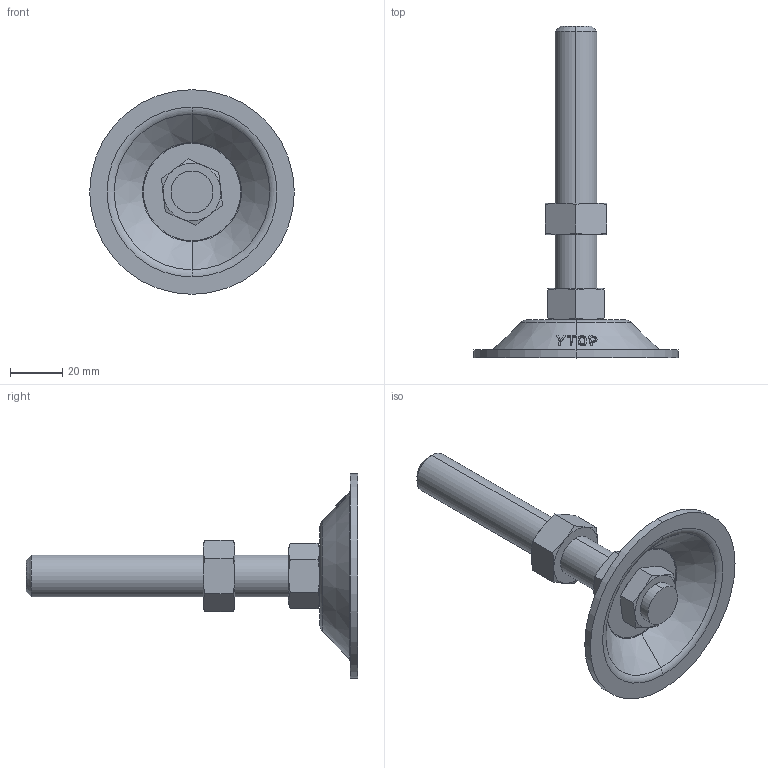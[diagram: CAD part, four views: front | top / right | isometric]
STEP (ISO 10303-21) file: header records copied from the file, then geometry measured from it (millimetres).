
FILE_DESCRIPTION (( 'STEP AP203' ), '1' );
FILE_NAME ('N-80-16100-S.STEP', '2020-09-10T08:03:42', ( '' ), ( '' ), 'SwSTEP 2.0', 'SolidWorks 2016', '' );
FILE_SCHEMA (( 'CONFIG_CONTROL_DESIGN' ));
Length unit declared in the file: millimetre
Products named in the file (5): N-80-16100-S; 脚垫调节六角螺母M16; H-80-3P H倰80菁釱; 不锈钢双头螺杆M16系列_M16X100; 脚垫锁紧六角薄螺母M16
Assembly tree (4 placements, depth 2):
  N-80-16100-S
    H-80-3P H倰80菁釱
    不锈钢双头螺杆M16系列_M16X100
    脚垫锁紧六角薄螺母M16
    脚垫调节六角螺母M16
Bounding box: 78 x 126.5 x 78 mm (x, y, z)
Volume: 49350.3 mm3; surface area: 22256.5 mm2
Topology: 4 solids, 4 shells, 140 faces, 320 edges, 198 vertices
Faces by surface type: cone 53, bspline 37, plane 30, cylinder 12, torus 8
Entity records: 7886 total; most frequent: CARTESIAN_POINT 4597, ORIENTED_EDGE 640, DIRECTION 452, EDGE_CURVE 320, AXIS2_PLACEMENT_3D 200, VERTEX_POINT 198, B_SPLINE_CURVE_WITH_KNOTS 178, EDGE_LOOP 156
